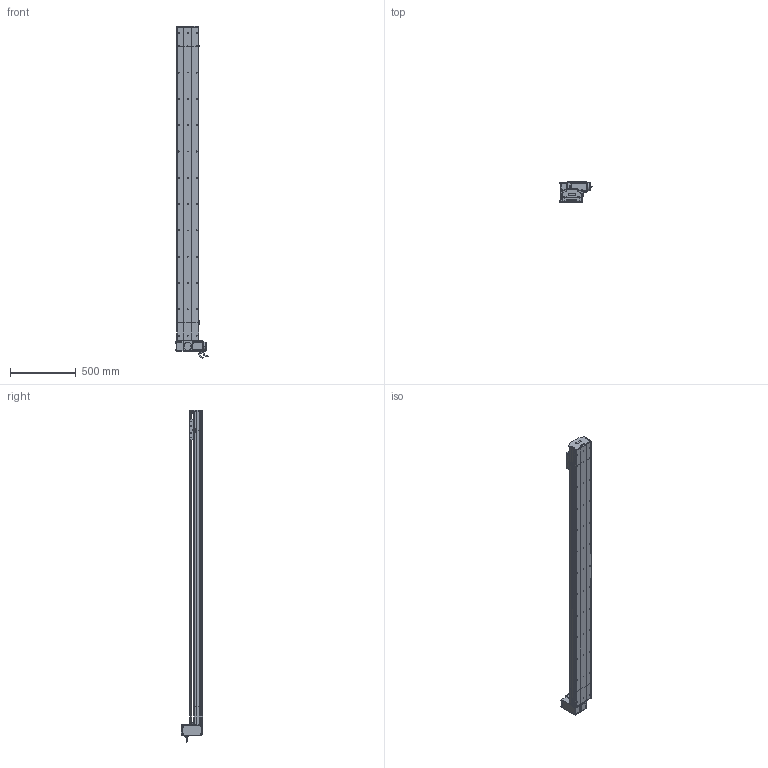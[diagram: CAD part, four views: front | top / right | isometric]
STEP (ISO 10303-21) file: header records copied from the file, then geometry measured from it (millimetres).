
FILE_DESCRIPTION (( 'STEP AP214' ), '1' );
FILE_NAME ('D17 TBH RT S2100.STEP', '2010-06-30T08:29:49', ( 'Christophe Gaillard' ), ( 'SGA' ), 'SwSTEP 2.0', 'SolidWorks 2010', '' );
FILE_SCHEMA (( 'AUTOMOTIVE_DESIGN' ));
Length unit declared in the file: millimetre
Products named in the file (40): guide D17; vis M5 L12_Default; avant 90BLDC125A-640; vis M5 L8 90°_Default; codeur 90BLDC125-640; poulie tail_Default; Chariot D17; Arbre+rail head D17B; Conecteur_Default; cache D17_Default; vis M5 L5_Default; chariot D17S_Default; Moteur motionking 90BLDC125A-640; D17 TBH RT S2100; Conecteur2_Default; course 2100 D17B_Default; poulie head_Default; couroie head D17_Default; Couroie tail D17B_Default; couvercle D17B_Default; plaque de  bout tail D17B_Default; Tail D17B+100_Default; corp tail D17B+100_Default; Renvoi RT_Default; cache arbre D17_Default; Vis M5 L16-2_Default; vis M5 L16_Default; Plaque racord D17_Default; vis M5 L70_Default; corp D17B 2100_Default; corpl head D17 _Default; Head RT D17B_Default; plaque de  bout head D17B RT_Default; couvercle D17B course L2100_Default; couvercle D17B head_Default; corps 90BLDC125A-640; Couroie+ rail D17 Course 2100 ; Rail D17B; vis M5 L25_Default; tete d''axe poulie D17B
Assembly tree (70 placements, depth 4):
  D17 TBH RT S2100
    chariot D17S_Default
      vis M5 L12_Default  x4
      guide D17  x2
      Chariot D17
    Head RT D17B_Default
      vis M5 L12_Default  x8
      Vis M5 L16-2_Default  x4
      Renvoi RT_Default
      cache D17_Default  x2
      vis M5 L5_Default  x4
      vis M5 L16_Default  x2
      vis M5 L70_Default  x4
      Arbre+rail head D17B
      plaque de  bout head D17B RT_Default
      corpl head D17 _Default
      couvercle D17B head_Default
      vis M5 L25_Default  x2
      poulie head_Default
      Plaque racord D17_Default
      cache arbre D17_Default
      Moteur motionking 90BLDC125A-640
        Conecteur2_Default
        Conecteur_Default
        corps 90BLDC125A-640
        avant 90BLDC125A-640
        codeur 90BLDC125-640
      couroie head D17_Default
    Tail D17B+100_Default
      vis M5 L12_Default  x4
      Couroie tail D17B_Default
      couvercle D17B_Default
      tete d''axe poulie D17B
      vis M5 L25_Default  x2
      corp tail D17B+100_Default
      vis M5 L8 90°_Default  x2
      plaque de  bout tail D17B_Default
      Rail D17B
      poulie tail_Default
    course 2100 D17B_Default
      corp D17B 2100_Default
      Couroie+ rail D17 Course 2100 
      couvercle D17B course L2100_Default
Bounding box: 245.2 x 166.15 x 2523.95 mm (x, y, z)
Volume: 14837076 mm3; surface area: 4269943.6 mm2
Topology: 94 solids, 94 shells, 2729 faces, 6927 edges, 4458 vertices
Faces by surface type: plane 1611, cylinder 805, bspline 136, cone 88, torus 85, sphere 4
Entity records: 85978 total; most frequent: CARTESIAN_POINT 25299, ORIENTED_EDGE 10626, DIRECTION 10070, EDGE_CURVE 5313, VECTOR 3504, LINE 3504, VERTEX_POINT 3482, AXIS2_PLACEMENT_3D 3283
